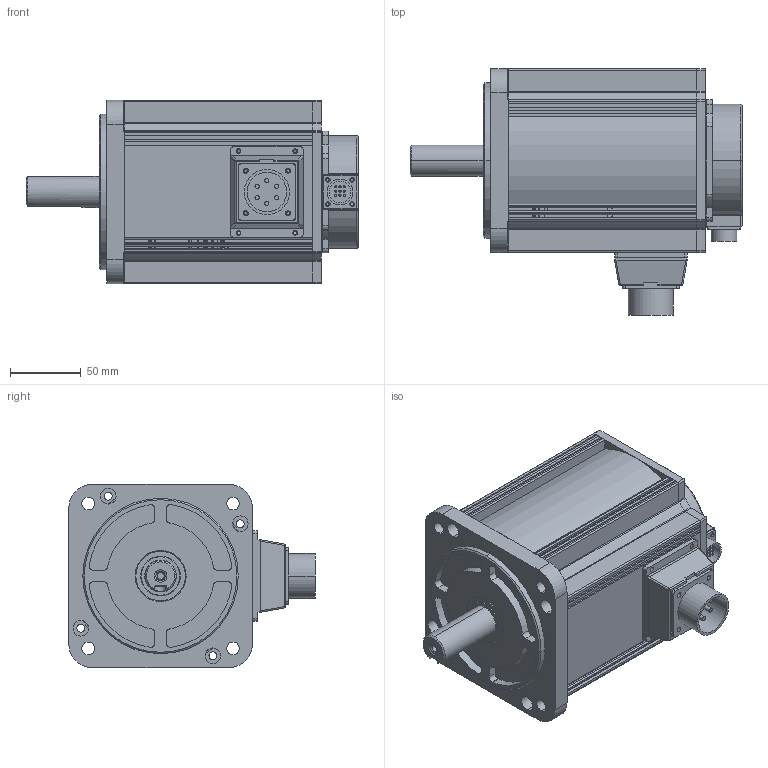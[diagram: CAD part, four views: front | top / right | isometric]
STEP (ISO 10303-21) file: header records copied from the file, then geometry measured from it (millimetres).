
FILE_DESCRIPTION(('FreeCAD Model'),'2;1');
FILE_NAME('Open CASCADE Shape Model','2025-03-18T10:28:10',('Author'),( ''),'Open CASCADE STEP processor 7.6','FreeCAD','Unknown');
FILE_SCHEMA(('AUTOMOTIVE_DESIGN { 1 0 10303 214 1 1 1 1 }'));
Length unit declared in the file: millimetre
Products named in the file (116): PSM6G-130CS20BZ2-21P120; PSM6G-130CS20BZ2-21P5; PSM6G-130CS20BZ2-21P008; PSM6G-130CS20BZ2-21P009; PSM6G-130CS20BZ2-21P010; PSM6G-130CS20BZ2-21P011; PSM6G-130CS20BZ2-21P012; PSM6G-130CS20BZ2-21P013; PSM6G-130CS20BZ2-21P014; PSM6G-130CS20BZ2-21P015; PSM6G-130CS20BZ2-21P016; PSM6G-130CS20BZ2-21P018; PSM6G-130CS20BZ2-21P017; PSM6G-130CS20BZ2-21P019; PSM6G-130CS20BZ2-21P021; PSM6G-130CS20BZ2-21P022; PSM6G-130CS20BZ2-21P023; PSM6G-130CS20BZ2-21P024; PSM6G-130CS20BZ2-21P025; PSM6G-130CS20BZ2-21P026; PSM6G-130CS20BZ2-21P027; PSM6G-130CS20BZ2-21P028; PSM6G-130CS20BZ2-21P029; PSM6G-130CS20BZ2-21P030; PSM6G-130CS20BZ2-21P031; PSM6G-130CS20BZ2-21P032; PSM6G-130CS20BZ2-21P033; PSM6G-130CS20BZ2-21P034; PSM6G-130CS20BZ2-21P035; PSM6G-130CS20BZ2-21P036; PSM6G-130CS20BZ2-21P037; PSM6G-130CS20BZ2-21P038; PSM6G-130CS20BZ2-21P039; PSM6G-130CS20BZ2-21P040; PSM6G-130CS20BZ2-21P041; PSM6G-130CS20BZ2-21P042; PSM6G-130CS20BZ2-21P043; PSM6G-130CS20BZ2-21P044; PSM6G-130CS20BZ2-21P045; PSM6G-130CS20BZ2-21P046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
Assembly tree (115 placements, depth 2):
  PSM6G-130CS20BZ2-21P120
    PSM6G-130CS20BZ2-21P5
    PSM6G-130CS20BZ2-21P008
    PSM6G-130CS20BZ2-21P009
    PSM6G-130CS20BZ2-21P010
    PSM6G-130CS20BZ2-21P011
    PSM6G-130CS20BZ2-21P012
    PSM6G-130CS20BZ2-21P013
    PSM6G-130CS20BZ2-21P014
    PSM6G-130CS20BZ2-21P015
    PSM6G-130CS20BZ2-21P016
    PSM6G-130CS20BZ2-21P018
    PSM6G-130CS20BZ2-21P017
    PSM6G-130CS20BZ2-21P019
    PSM6G-130CS20BZ2-21P021
    PSM6G-130CS20BZ2-21P022
    PSM6G-130CS20BZ2-21P023
    PSM6G-130CS20BZ2-21P024
    PSM6G-130CS20BZ2-21P025
    PSM6G-130CS20BZ2-21P026
    PSM6G-130CS20BZ2-21P027
    PSM6G-130CS20BZ2-21P028
    PSM6G-130CS20BZ2-21P029
    PSM6G-130CS20BZ2-21P030
    PSM6G-130CS20BZ2-21P031
    PSM6G-130CS20BZ2-21P032
    PSM6G-130CS20BZ2-21P033
    PSM6G-130CS20BZ2-21P034
    PSM6G-130CS20BZ2-21P035
    PSM6G-130CS20BZ2-21P036
    PSM6G-130CS20BZ2-21P037
    PSM6G-130CS20BZ2-21P038
    PSM6G-130CS20BZ2-21P039
    PSM6G-130CS20BZ2-21P040
    PSM6G-130CS20BZ2-21P041
    PSM6G-130CS20BZ2-21P042
    PSM6G-130CS20BZ2-21P043
    PSM6G-130CS20BZ2-21P044
    PSM6G-130CS20BZ2-21P045
    PSM6G-130CS20BZ2-21P046
    PSM6G-130CS20BZ2-21P047
    PSM6G-130CS20BZ2-21P048
    PSM6G-130CS20BZ2-21P049
    PSM6G-130CS20BZ2-21P050
    PSM6G-130CS20BZ2-21P051
    PSM6G-130CS20BZ2-21P052
    PSM6G-130CS20BZ2-21P053
    PSM6G-130CS20BZ2-21P054
    PSM6G-130CS20BZ2-21P055
    PSM6G-130CS20BZ2-21P056
    PSM6G-130CS20BZ2-21P057
    PSM6G-130CS20BZ2-21P058
    PSM6G-130CS20BZ2-21P059
    PSM6G-130CS20BZ2-21P060
    PSM6G-130CS20BZ2-21P061
    PSM6G-130CS20BZ2-21P062
    PSM6G-130CS20BZ2-21P124
    PSM6G-130CS20BZ2-21P063
    PSM6G-130CS20BZ2-21P064
    PSM6G-130CS20BZ2-21P070
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Bounding box: 235 x 174.5 x 130 mm (x, y, z)
Surface area: 199574.9 mm2 (no closed solid volume)
Topology: 0 solids, 115 shells, 1914 faces, 6794 edges, 4964 vertices
Faces by surface type: cylinder 1060, plane 828, cone 12, torus 9, sphere 4, bspline 1
Entity records: 77221 total; most frequent: CARTESIAN_POINT 14444, DIRECTION 13607, ORIENTED_EDGE 10643, EDGE_CURVE 6794, VERTEX_POINT 4964, AXIS2_PLACEMENT_3D 4803, LINE 4001, VECTOR 4001
